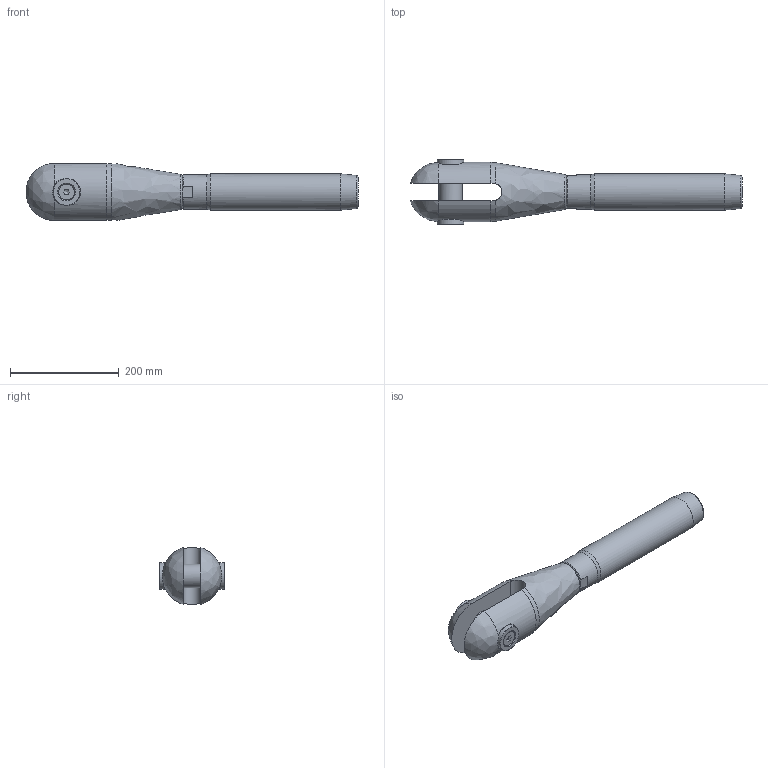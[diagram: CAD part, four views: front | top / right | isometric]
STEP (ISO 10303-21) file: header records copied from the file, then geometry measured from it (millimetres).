
FILE_DESCRIPTION(/* description */ (''),/* implementation_level */ '2;1');
FILE_NAME(/* name */ 'MAC-R 30_S355',/* time_stamp */ '2023-05-23T17:52:53+02:00',/* author */ (''),/* organization */ (''),/* preprocessor_version */ 'ST-DEVELOPER v16.5',/* originating_system */ 'Rhino 7.22',/* authorisation */ '');
FILE_SCHEMA (('CONFIG_CONTROL_DESIGN'));
Length unit declared in the file: millimetre
Products named in the file (1): Document
Bounding box: 610.02 x 119.28 x 104.2 mm (x, y, z)
Volume: 2703995 mm3; surface area: 259915.7 mm2
Topology: 7 solids, 7 shells, 87 faces, 245 edges, 171 vertices
Faces by surface type: plane 36, bspline 27, cylinder 24
Full cylindrical faces by diameter (mm): 13.835 x2, 16 x2, 17 x2, 29.01 x2, 43 x1, 45 x2, 49 x2, 52.752 x1, 56 x1, 63.5 x1, 66.8 x1
Entity records: 3523 total; most frequent: CARTESIAN_POINT 1967, ORIENTED_EDGE 480, EDGE_CURVE 240, VERTEX_POINT 171, EDGE_LOOP 99, B_SPLINE_CURVE_WITH_KNOTS 96, ADVANCED_FACE 87, FACE_OUTER_BOUND 87
